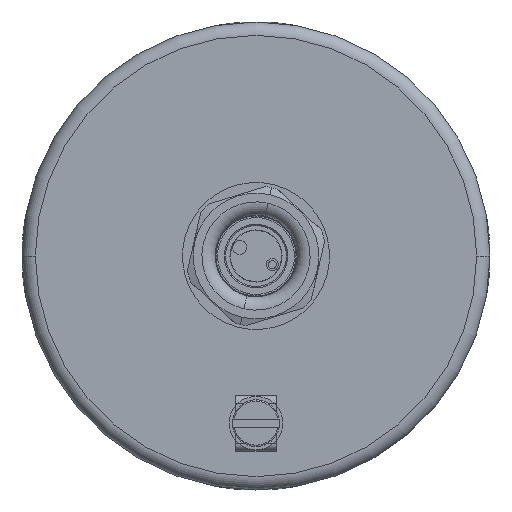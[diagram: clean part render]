
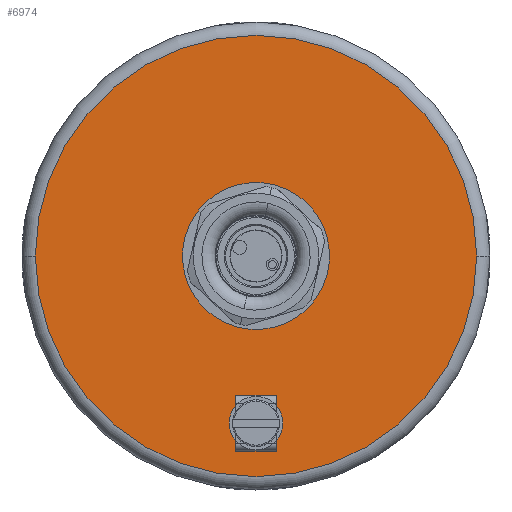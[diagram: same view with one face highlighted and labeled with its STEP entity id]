
A CAD part, left-side view. The second image highlights one B-rep face of the part: STEP entity #6974.
In plain terms, the highlighted planar face has unit normal (-1, 0, 0).
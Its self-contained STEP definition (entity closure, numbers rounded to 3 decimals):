
#6878 = ORIENTED_EDGE ( 'NONE', *, *, #6879, .T. ) ;
#6879 = EDGE_CURVE ( 'NONE', #7121, #7124, #12450, .T. ) ;
#6974 = ADVANCED_FACE ( 'NONE', ( #10279, #10191, #10190 ), #10240, .F. ) ;
#7052 = EDGE_LOOP ( 'NONE', ( #7053, #7057 ) ) ;
#7053 = ORIENTED_EDGE ( 'NONE', *, *, #7054, .F. ) ;
#7054 = EDGE_CURVE ( 'NONE', #7055, #7056, #10705, .T. ) ;
#7055 = VERTEX_POINT ( 'NONE', #10634 ) ;
#7056 = VERTEX_POINT ( 'NONE', #10633 ) ;
#7057 = ORIENTED_EDGE ( 'NONE', *, *, #7058, .F. ) ;
#7058 = EDGE_CURVE ( 'NONE', #7056, #7055, #10664, .T. ) ;
#7059 = EDGE_LOOP ( 'NONE', ( #7060, #7098 ) ) ;
#7060 = ORIENTED_EDGE ( 'NONE', *, *, #7061, .F. ) ;
#7061 = EDGE_CURVE ( 'NONE', #7062, #7063, #10730, .T. ) ;
#7062 = VERTEX_POINT ( 'NONE', #10726 ) ;
#7063 = VERTEX_POINT ( 'NONE', #10725 ) ;
#7098 = ORIENTED_EDGE ( 'NONE', *, *, #7099, .F. ) ;
#7099 = EDGE_CURVE ( 'NONE', #7063, #7062, #10872, .T. ) ;
#7100 = EDGE_LOOP ( 'NONE', ( #7101, #6878 ) ) ;
#7101 = ORIENTED_EDGE ( 'NONE', *, *, #7123, .T. ) ;
#7121 = VERTEX_POINT ( 'NONE', #10871 ) ;
#7123 = EDGE_CURVE ( 'NONE', #7124, #7121, #10869, .T. ) ;
#7124 = VERTEX_POINT ( 'NONE', #10924 ) ;
#10190 = FACE_OUTER_BOUND ( 'NONE', #7100, .T. ) ;
#10191 = FACE_BOUND ( 'NONE', #7059, .T. ) ;
#10203 = DIRECTION ( 'NONE',  ( 0., 1., 0. ) ) ;
#10204 = DIRECTION ( 'NONE',  ( 1., 0., 0. ) ) ;
#10238 = CARTESIAN_POINT ( 'NONE',  ( -70.2, 0., 0. ) ) ;
#10239 = AXIS2_PLACEMENT_3D ( 'NONE', #10238, #10204, #10203 ) ;
#10240 = PLANE ( 'NONE',  #10239 ) ;
#10279 = FACE_BOUND ( 'NONE', #7052, .T. ) ;
#10633 = CARTESIAN_POINT ( 'NONE',  ( -70.2, 2.7, -25. ) ) ;
#10634 = CARTESIAN_POINT ( 'NONE',  ( -70.2, -2.7, -25. ) ) ;
#10635 = DIRECTION ( 'NONE',  ( 0., -1., 0. ) ) ;
#10636 = DIRECTION ( 'NONE',  ( -1., 0., 0. ) ) ;
#10660 = DIRECTION ( 'NONE',  ( 0., -1., 0. ) ) ;
#10661 = DIRECTION ( 'NONE',  ( -1., 0., 0. ) ) ;
#10662 = CARTESIAN_POINT ( 'NONE',  ( -70.2, 0., -25. ) ) ;
#10663 = AXIS2_PLACEMENT_3D ( 'NONE', #10662, #10661, #10660 ) ;
#10664 = CIRCLE ( 'NONE', #10663, 2.7 ) ;
#10665 = CARTESIAN_POINT ( 'NONE',  ( -70.2, 0., 0. ) ) ;
#10704 = AXIS2_PLACEMENT_3D ( 'NONE', #10715, #10636, #10635 ) ;
#10705 = CIRCLE ( 'NONE', #10704, 2.7 ) ;
#10715 = CARTESIAN_POINT ( 'NONE',  ( -70.2, 0., -25. ) ) ;
#10725 = CARTESIAN_POINT ( 'NONE',  ( -70.2, 7.25, 0. ) ) ;
#10726 = CARTESIAN_POINT ( 'NONE',  ( -70.2, -7.25, 0. ) ) ;
#10727 = DIRECTION ( 'NONE',  ( 0., -1., 0. ) ) ;
#10728 = DIRECTION ( 'NONE',  ( -1., 0., 0. ) ) ;
#10729 = AXIS2_PLACEMENT_3D ( 'NONE', #10665, #10728, #10727 ) ;
#10730 = CIRCLE ( 'NONE', #10729, 7.25 ) ;
#10863 = DIRECTION ( 'NONE',  ( -1., 0., 0. ) ) ;
#10864 = CARTESIAN_POINT ( 'NONE',  ( -70.2, 0., 0. ) ) ;
#10865 = AXIS2_PLACEMENT_3D ( 'NONE', #10864, #10863, #10866 ) ;
#10866 = DIRECTION ( 'NONE',  ( 0., -1., 0. ) ) ;
#10869 = CIRCLE ( 'NONE', #10879, 33. ) ;
#10871 = CARTESIAN_POINT ( 'NONE',  ( -70.2, 33., 0. ) ) ;
#10872 = CIRCLE ( 'NONE', #10865, 7.25 ) ;
#10879 = AXIS2_PLACEMENT_3D ( 'NONE', #10913, #10912, #10911 ) ;
#10911 = DIRECTION ( 'NONE',  ( 0., -1., 0. ) ) ;
#10912 = DIRECTION ( 'NONE',  ( -1., 0., 0. ) ) ;
#10913 = CARTESIAN_POINT ( 'NONE',  ( -70.2, 0., 0. ) ) ;
#10924 = CARTESIAN_POINT ( 'NONE',  ( -70.2, -33., 0. ) ) ;
#12446 = DIRECTION ( 'NONE',  ( 0., -1., 0. ) ) ;
#12447 = DIRECTION ( 'NONE',  ( -1., 0., 0. ) ) ;
#12448 = CARTESIAN_POINT ( 'NONE',  ( -70.2, 0., 0. ) ) ;
#12449 = AXIS2_PLACEMENT_3D ( 'NONE', #12448, #12447, #12446 ) ;
#12450 = CIRCLE ( 'NONE', #12449, 33. ) ;
